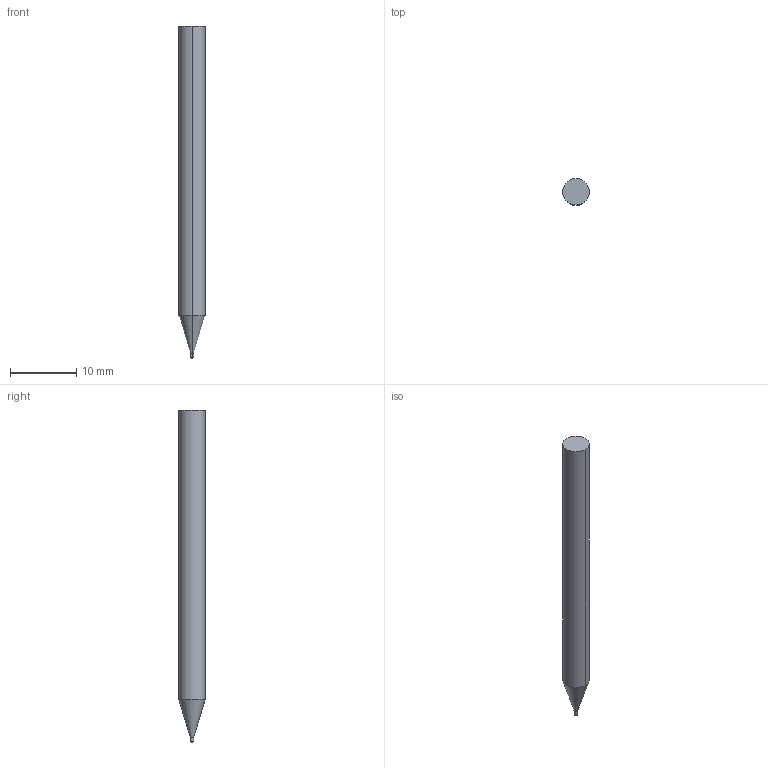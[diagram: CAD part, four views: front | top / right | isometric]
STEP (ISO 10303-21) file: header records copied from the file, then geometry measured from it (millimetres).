
FILE_DESCRIPTION((' '),'2;1');
FILE_NAME( '3MVSM0050R.10AH.stp', '2026-01-21T19:26:57', (' '), ('--- Datakit www.datakit.com---'), ' Datakit CrossCadWare V2025.4 Sep 19 2025', 'Mastercam 2027', ' ');
FILE_SCHEMA(('AUTOMOTIVE_DESIGN { 1 0 10303 214 1 1 1 1 }'));
Length unit declared in the file: inch
Products named in the file (1): 3MVSM0050R
Bounding box: 4 x 4 x 50 mm (x, y, z)
Volume: 574.6 mm3; surface area: 603.2 mm2
Topology: 1 solids, 1 shells, 10 faces, 18 edges, 10 vertices
Faces by surface type: cylinder 4, plane 2, torus 2, cone 2
Entity records: 318 total; most frequent: DIRECTION 60, CARTESIAN_POINT 43, ORIENTED_EDGE 36, AXIS2_PLACEMENT_3D 27, EDGE_CURVE 18, CIRCLE 12, VERTEX_POINT 10, EDGE_LOOP 10
